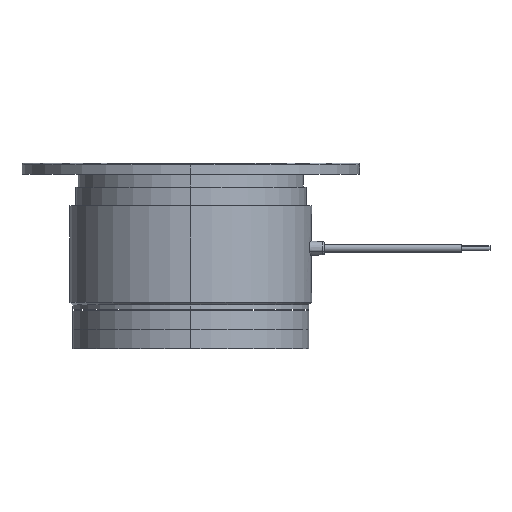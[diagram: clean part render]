
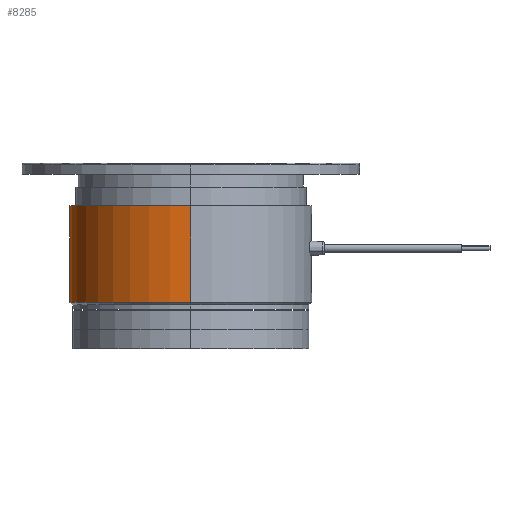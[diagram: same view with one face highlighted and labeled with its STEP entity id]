
A CAD part, left-side view. The second image highlights one B-rep face of the part: STEP entity #8285.
In plain terms, the highlighted cylindrical face has radius 21.5 mm (diameter 43 mm), a partial arc.
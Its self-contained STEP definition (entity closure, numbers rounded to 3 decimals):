
#15 = AXIS2_PLACEMENT_3D ( 'NONE', #2810, #4688, #2855 ) ;
#280 = CIRCLE ( 'NONE', #15, 21.5 ) ;
#429 = ORIENTED_EDGE ( 'NONE', *, *, #1943, .F. ) ;
#750 = EDGE_LOOP ( 'NONE', ( #6101, #1916, #8313, #429 ) ) ;
#1786 = LINE ( 'NONE', #6889, #1959 ) ;
#1916 = ORIENTED_EDGE ( 'NONE', *, *, #5491, .T. ) ;
#1943 = EDGE_CURVE ( 'NONE', #4660, #5860, #1786, .T. ) ;
#1959 = VECTOR ( 'NONE', #2464, 1000. ) ;
#2194 = AXIS2_PLACEMENT_3D ( 'NONE', #7983, #6792, #2284 ) ;
#2284 = DIRECTION ( 'NONE',  ( 1., 0., 0. ) ) ;
#2464 = DIRECTION ( 'NONE',  ( 0., 0., 1. ) ) ;
#2810 = CARTESIAN_POINT ( 'NONE',  ( 0., 0., -24.7 ) ) ;
#2855 = DIRECTION ( 'NONE',  ( 1., 0., 0. ) ) ;
#3964 = CARTESIAN_POINT ( 'NONE',  ( -21.5, 0., 3.603 ) ) ;
#4016 = AXIS2_PLACEMENT_3D ( 'NONE', #5926, #6601, #6806 ) ;
#4100 = EDGE_CURVE ( 'NONE', #5860, #5317, #7124, .T. ) ;
#4122 = FACE_OUTER_BOUND ( 'NONE', #750, .T. ) ;
#4210 = CARTESIAN_POINT ( 'NONE',  ( 21.5, 0., -24.7 ) ) ;
#4510 = DIRECTION ( 'NONE',  ( 0., 0., 1. ) ) ;
#4660 = VERTEX_POINT ( 'NONE', #4210 ) ;
#4688 = DIRECTION ( 'NONE',  ( 0., 0., 1. ) ) ;
#5104 = VECTOR ( 'NONE', #4510, 1000. ) ;
#5108 = LINE ( 'NONE', #3964, #5104 ) ;
#5226 = EDGE_CURVE ( 'NONE', #4660, #6569, #280, .T. ) ;
#5317 = VERTEX_POINT ( 'NONE', #8171 ) ;
#5491 = EDGE_CURVE ( 'NONE', #6569, #5317, #5108, .T. ) ;
#5860 = VERTEX_POINT ( 'NONE', #6488 ) ;
#5926 = CARTESIAN_POINT ( 'NONE',  ( 0., 0., -7.6 ) ) ;
#6101 = ORIENTED_EDGE ( 'NONE', *, *, #5226, .T. ) ;
#6488 = CARTESIAN_POINT ( 'NONE',  ( 21.5, 0., -7.6 ) ) ;
#6569 = VERTEX_POINT ( 'NONE', #7909 ) ;
#6601 = DIRECTION ( 'NONE',  ( 0., 0., 1. ) ) ;
#6792 = DIRECTION ( 'NONE',  ( 0., 0., 1. ) ) ;
#6806 = DIRECTION ( 'NONE',  ( 1., 0., 0. ) ) ;
#6834 = CYLINDRICAL_SURFACE ( 'NONE', #2194, 21.5 ) ;
#6889 = CARTESIAN_POINT ( 'NONE',  ( 21.5, 0., 3.603 ) ) ;
#7124 = CIRCLE ( 'NONE', #4016, 21.5 ) ;
#7909 = CARTESIAN_POINT ( 'NONE',  ( -21.5, 0., -24.7 ) ) ;
#7983 = CARTESIAN_POINT ( 'NONE',  ( 0., 0., 3.603 ) ) ;
#8171 = CARTESIAN_POINT ( 'NONE',  ( -21.5, 0., -7.6 ) ) ;
#8285 = ADVANCED_FACE ( 'NONE', ( #4122 ), #6834, .T. ) ;
#8313 = ORIENTED_EDGE ( 'NONE', *, *, #4100, .F. ) ;
